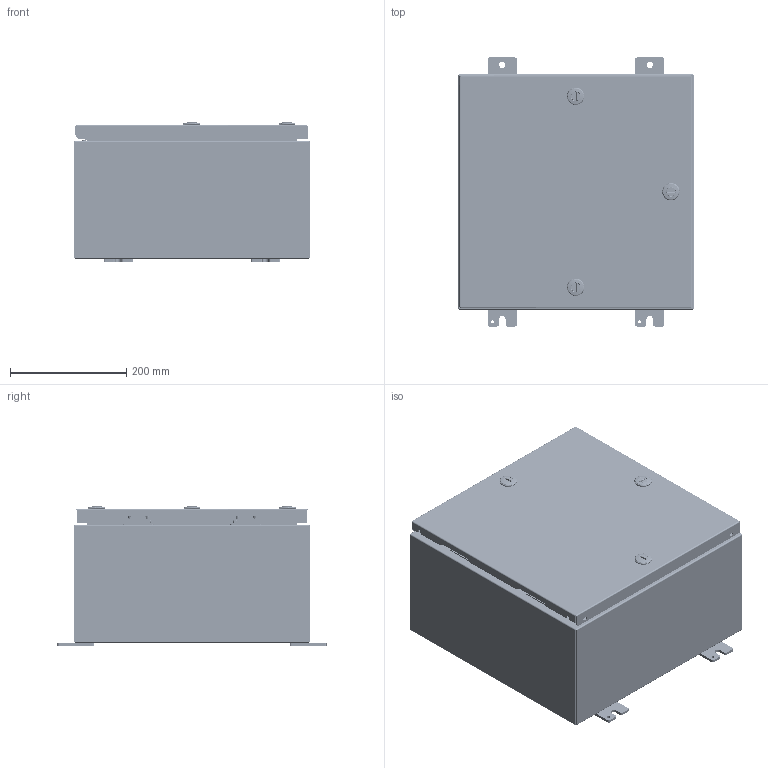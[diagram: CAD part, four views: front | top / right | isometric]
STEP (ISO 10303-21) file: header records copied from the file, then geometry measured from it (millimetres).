
FILE_DESCRIPTION((''),'2;1');
FILE_NAME('C:\Vault_Workspace\Inventor_Dwg\BoxCad\Result\5412ESPR161608\e-mail\3D\5412ESPR161608.stp','2014-04-08T23:07:22',(''),(''),'Autodesk Inventor 2012','Autodesk Inventor 2012','');
FILE_SCHEMA(('AUTOMOTIVE_DESIGN { 1 0 10303 214 1 1 1 1 }'));
Length unit declared in the file: inch
Products named in the file (38): 5412ESPR161608; 5412ESPR161608B; 5412ESPR161608B-P; STK-Q-16080; STK-Q-16005; STK-Q-71000; STK-P-02400S; STK-Q-07610; 881SP1616; 881SP1616-P; STK-P-02401S; STK-Q-07310; 5412ESPR161608C; 5412ESPR161608C-P; 5412ESPR161608G; STK-Q-33105; STK-A-33005PR-1; STK-Q-33005PR; STK-Q-90260; STK-Q-40010-1; STK-Q-40010-A; STK-Q-40010-B; STK-A-33005PR-2; STK-A-880SCQ4-SL-1; STK-Q-78110; STK-Q-78120; STK-Q-78145; STK-Q-03200; STK-Q-78125; STK-Q-78140; STK-Q-90390; STK-Q-78160; STK-A-880SCQ4-SL-5; STK-A-880SCQ4-SL-6; STK-S-00100; STK-Q-03000; STK-A-01800; STK-A-880PP
Assembly tree (76 placements, depth 5):
  5412ESPR161608
    5412ESPR161608B
      5412ESPR161608B-P
      STK-Q-16080
      STK-Q-16005  x4
      STK-Q-71000  x4
      STK-P-02400S
    STK-Q-07610  x4
    881SP1616
      881SP1616-P
      STK-P-02401S
    STK-Q-07310  x4
    5412ESPR161608C
      5412ESPR161608C-P
      5412ESPR161608G
      STK-Q-33105  x2
      STK-A-33005PR-1
        STK-Q-33005PR
        STK-Q-90260  x2
        STK-Q-40010-1
          STK-Q-40010-A
          STK-Q-40010-B
      STK-A-33005PR-2
        STK-Q-33005PR
        STK-Q-90260  x2
        STK-Q-40010-1
          STK-Q-40010-A
          STK-Q-40010-B
      STK-A-880SCQ4-SL-1
        STK-Q-78110
        STK-Q-78120
        STK-Q-78145
        STK-Q-03200
        STK-Q-78125
        STK-Q-78140
        STK-Q-90390
        STK-Q-78160
      STK-A-880SCQ4-SL-5
        STK-Q-78110
        STK-Q-78120
        STK-Q-78145
        STK-Q-03200
        STK-Q-78125
        STK-Q-78140
        STK-Q-90390
        STK-Q-78160
      STK-A-880SCQ4-SL-6
        STK-Q-78110
        STK-Q-78120
        STK-Q-78145
        STK-Q-03200
        STK-Q-78125
        STK-Q-78140
        STK-Q-90390
        STK-Q-78160
      STK-Q-16080
      STK-S-00100
      STK-P-02400S
    STK-Q-03000  x4
    STK-A-01800
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Bounding box: 406.4 x 463.56 x 239.59 mm (x, y, z)
Volume: 1618332.6 mm3; surface area: 1920923.1 mm2
Topology: 63 solids, 63 shells, 6388 faces, 17075 edges, 10797 vertices
Faces by surface type: plane 2322, bspline 2000, cylinder 1507, torus 302, cone 149, sphere 108
Full cylindrical faces by diameter (mm): 0.75 x6, 0.762 x10, 2.375 x4, 4.75 x4, 5 x4, 5.1 x30, 5.156 x4, 5.5 x2, 6.3 x4, 6.65 x4, 7 x4, 7.366 x7, 7.9 x4, 8 x8, 9.6 x3, 10 x3, 10.5 x2, 11.1 x4, 12.8 x3, 13 x3, 15.9 x3, 16 x3, 18.2 x4, 19.7 x3, 29 x3
Entity records: 94726 total; most frequent: CARTESIAN_POINT 44264, ORIENTED_EDGE 11438, DIRECTION 8195, EDGE_CURVE 5719, VERTEX_POINT 3657, AXIS2_PLACEMENT_3D 2871, VECTOR 2453, LINE 2453
